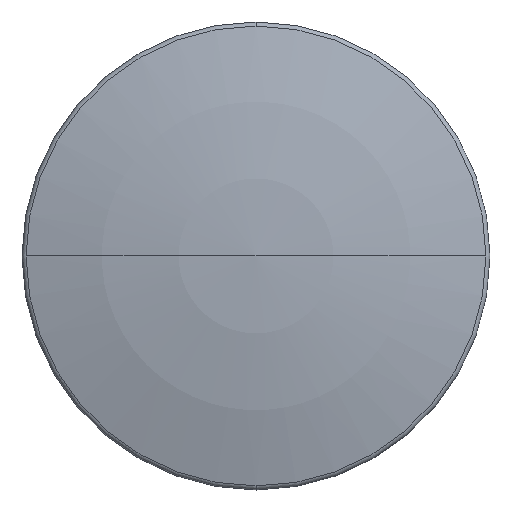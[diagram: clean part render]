
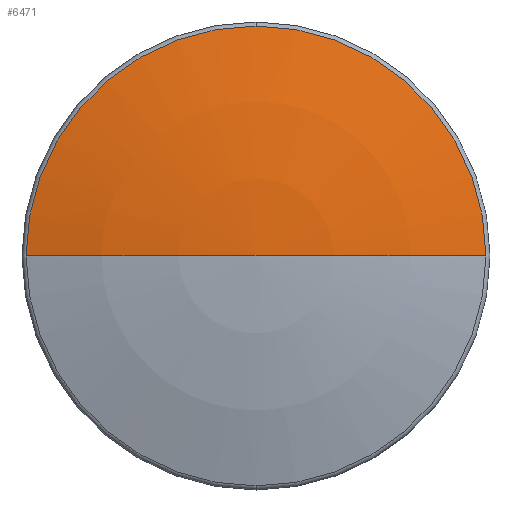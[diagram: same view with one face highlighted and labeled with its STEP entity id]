
A CAD part, top view. The second image highlights one B-rep face of the part: STEP entity #6471.
In plain terms, the highlighted spherical face has radius 120.225 mm.
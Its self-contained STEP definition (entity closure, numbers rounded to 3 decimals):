
#6258=CARTESIAN_POINT('',(71.637,33.003,45.091));
#6259=DIRECTION('',(0.,0.,-1.));
#6260=DIRECTION('',(0.,1.,0.));
#6261=AXIS2_PLACEMENT_3D('',#6258,#6259,#6260);
#6273=CARTESIAN_POINT('',(71.637,33.003,-71.064));
#6274=DIRECTION('',(0.,1.,0.));
#6275=DIRECTION('',(-0.258,0.,0.966));
#6276=AXIS2_PLACEMENT_3D('',#6273,#6274,#6275);
#6278=CARTESIAN_POINT('',(71.637,33.003,-71.064));
#6279=DIRECTION('',(0.,-1.,0.));
#6280=DIRECTION('',(0.258,0.,0.966));
#6281=AXIS2_PLACEMENT_3D('',#6278,#6279,#6280);
#6303=CARTESIAN_POINT('',(71.637,33.003,45.091));
#6304=DIRECTION('',(0.,0.,-1.));
#6305=DIRECTION('',(-1.,0.,0.));
#6306=AXIS2_PLACEMENT_3D('',#6303,#6304,#6305);
#6316=CARTESIAN_POINT('',(102.655,33.003,45.091));
#6317=CARTESIAN_POINT('',(71.637,33.003,49.161));
#6318=VERTEX_POINT('',#6316);
#6319=VERTEX_POINT('',#6317);
#6320=CARTESIAN_POINT('',(40.619,33.003,45.091));
#6321=VERTEX_POINT('',#6320);
#6338=CARTESIAN_POINT('',(71.637,64.022,45.091));
#6339=VERTEX_POINT('',#6338);
#6457=CARTESIAN_POINT('',(71.637,33.003,-71.064));
#6458=DIRECTION('',(0.,0.,1.));
#6459=DIRECTION('',(1.,0.,0.));
#6460=AXIS2_PLACEMENT_3D('',#6457,#6458,#6459);
#6461=SPHERICAL_SURFACE('',#6460,120.225);
#6462=ORIENTED_EDGE('',*,*,#6445,.T.);
#6464=ORIENTED_EDGE('',*,*,#6463,.T.);
#6466=ORIENTED_EDGE('',*,*,#6465,.F.);
#6468=ORIENTED_EDGE('',*,*,#6467,.T.);
#6469=EDGE_LOOP('',(#6462,#6464,#6466,#6468));
#6470=FACE_OUTER_BOUND('',#6469,.F.);
#6471=ADVANCED_FACE('',(#6470),#6461,.T.);
#6262=CIRCLE('',#6261,31.018);
#6277=CIRCLE('',#6276,120.225);
#6282=CIRCLE('',#6281,120.225);
#6307=CIRCLE('',#6306,31.018);
#6445=EDGE_CURVE('',#6339,#6318,#6262,.T.);
#6463=EDGE_CURVE('',#6318,#6319,#6282,.T.);
#6465=EDGE_CURVE('',#6321,#6319,#6277,.T.);
#6467=EDGE_CURVE('',#6321,#6339,#6307,.T.);
